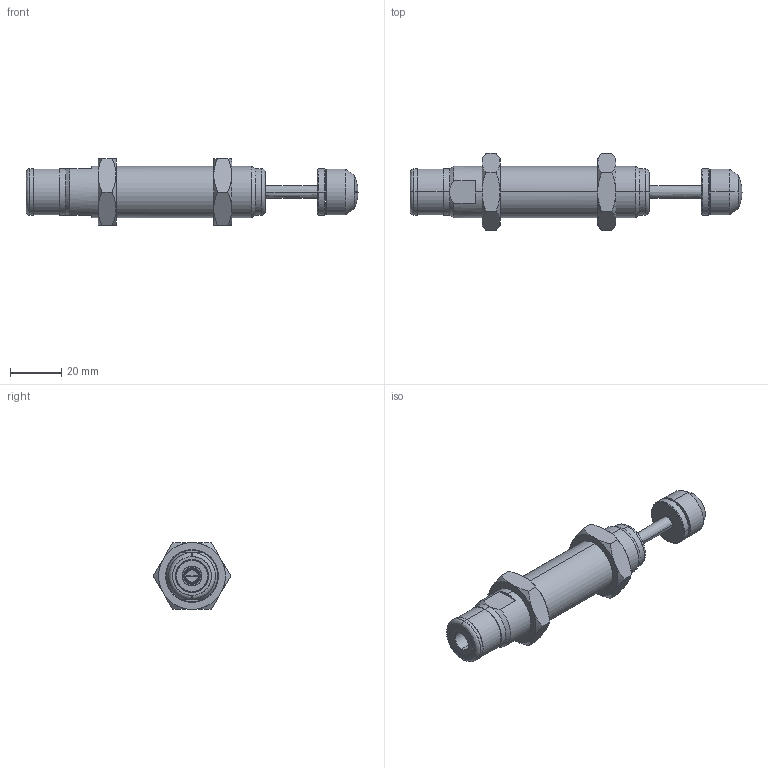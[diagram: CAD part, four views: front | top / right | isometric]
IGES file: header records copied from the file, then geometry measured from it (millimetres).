
Start section: SolidWorks IGES file using analytic representation for surfaces
Global section: file name: D:\IGS跡宒\AC2020-2K.IGS,1; native system: 5HSolidWorks 2013; preprocessor: SolidWorks 2013; author: Administrator; date: 160920.093535; units: inch
Bounding box: 129.1 x 30.02 x 26 mm (x, y, z)
Surface area: 11410.7 mm2 (no closed solid volume)
Topology: 0 solids, 0 shells, 113 faces, 1703 edges, 1702 vertices
Faces by surface type: revolution 78, bspline 35
